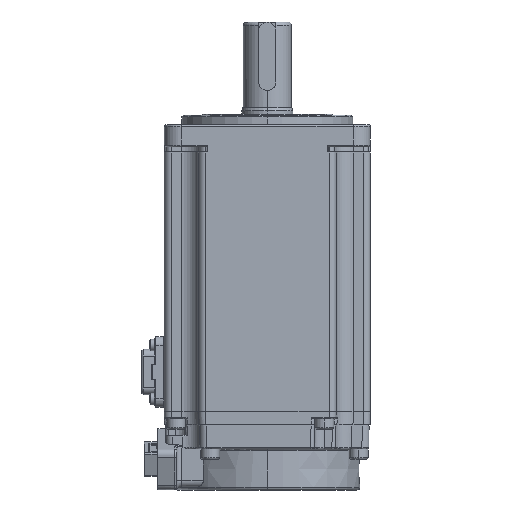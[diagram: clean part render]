
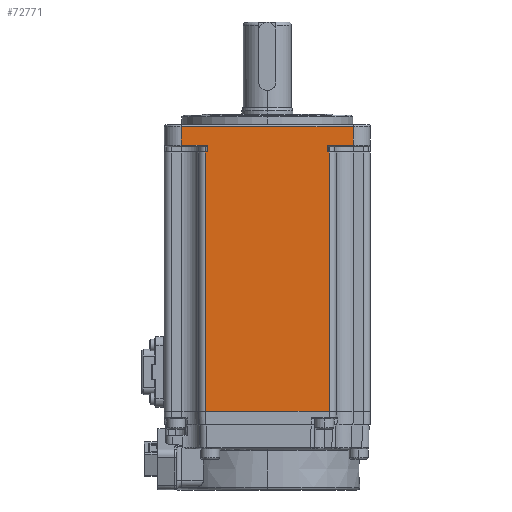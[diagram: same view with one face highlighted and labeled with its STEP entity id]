
A CAD part, left-side view. The second image highlights one B-rep face of the part: STEP entity #72771.
In plain terms, the highlighted planar face has unit normal (-1, 0, 0).
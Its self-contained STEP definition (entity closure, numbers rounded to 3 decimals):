
#1076 = EDGE_CURVE ( 'NONE', #79995, #11406, #11688, .T. ) ;
#1765 = EDGE_CURVE ( 'NONE', #31308, #49079, #22881, .T. ) ;
#2182 = DIRECTION ( 'NONE',  ( 0., -1., 0. ) ) ;
#2753 = CARTESIAN_POINT ( 'NONE',  ( -30.584, 8.554, 119.1 ) ) ;
#4124 = CARTESIAN_POINT ( 'NONE',  ( -30.584, 7.954, 110.7 ) ) ;
#5734 = EDGE_CURVE ( 'NONE', #97655, #78795, #35580, .T. ) ;
#6970 = LINE ( 'NONE', #79907, #12450 ) ;
#9195 = CARTESIAN_POINT ( 'NONE',  ( -30.584, -27.046, 112.7 ) ) ;
#10224 = CARTESIAN_POINT ( 'NONE',  ( -30.584, -39.646, 110.7 ) ) ;
#11053 = CARTESIAN_POINT ( 'NONE',  ( -30.584, -34.646, 112.7 ) ) ;
#11406 = VERTEX_POINT ( 'NONE', #89663 ) ;
#11688 = LINE ( 'NONE', #94845, #103019 ) ;
#12235 = DIRECTION ( 'NONE',  ( 0., 1., 0. ) ) ;
#12450 = VECTOR ( 'NONE', #97329, 1000. ) ;
#15384 = CARTESIAN_POINT ( 'NONE',  ( -30.584, 8.554, 110.7 ) ) ;
#18772 = CARTESIAN_POINT ( 'NONE',  ( -30.584, -27.046, 119.1 ) ) ;
#20343 = AXIS2_PLACEMENT_3D ( 'NONE', #46258, #108033, #55170 ) ;
#21941 = VECTOR ( 'NONE', #27697, 1000. ) ;
#22881 = LINE ( 'NONE', #64111, #90559 ) ;
#25830 = ORIENTED_EDGE ( 'NONE', *, *, #81638, .T. ) ;
#26488 = EDGE_LOOP ( 'NONE', ( #82500, #96374, #54987, #81148, #27273, #39646, #86642, #89366, #76993, #25830, #52174, #78390 ) ) ;
#27273 = ORIENTED_EDGE ( 'NONE', *, *, #66338, .T. ) ;
#27664 = DIRECTION ( 'NONE',  ( 0., 0., 1. ) ) ;
#27697 = DIRECTION ( 'NONE',  ( 0., -1., 0. ) ) ;
#28423 = PLANE ( 'NONE',  #20343 ) ;
#31308 = VERTEX_POINT ( 'NONE', #38748 ) ;
#35580 = LINE ( 'NONE', #38964, #103341 ) ;
#35981 = EDGE_CURVE ( 'NONE', #78795, #76655, #79015, .T. ) ;
#38002 = EDGE_CURVE ( 'NONE', #49079, #69576, #97989, .T. ) ;
#38748 = CARTESIAN_POINT ( 'NONE',  ( -30.584, 15.554, 118.1 ) ) ;
#38964 = CARTESIAN_POINT ( 'NONE',  ( -30.584, -27.646, 119.1 ) ) ;
#39002 = DIRECTION ( 'NONE',  ( 0., 0., 1. ) ) ;
#39646 = ORIENTED_EDGE ( 'NONE', *, *, #1076, .T. ) ;
#40884 = CARTESIAN_POINT ( 'NONE',  ( -30.584, -27.646, 110.7 ) ) ;
#43494 = VERTEX_POINT ( 'NONE', #84797 ) ;
#45990 = VECTOR ( 'NONE', #111430, 1000. ) ;
#46258 = CARTESIAN_POINT ( 'NONE',  ( -30.584, -39.646, 119.1 ) ) ;
#46819 = DIRECTION ( 'NONE',  ( 0., 0., -1. ) ) ;
#48915 = CARTESIAN_POINT ( 'NONE',  ( -30.584, -39.646, 118.1 ) ) ;
#49079 = VERTEX_POINT ( 'NONE', #66122 ) ;
#50977 = VECTOR ( 'NONE', #12235, 1000. ) ;
#52174 = ORIENTED_EDGE ( 'NONE', *, *, #109772, .T. ) ;
#54245 = LINE ( 'NONE', #89932, #74978 ) ;
#54987 = ORIENTED_EDGE ( 'NONE', *, *, #35981, .T. ) ;
#55170 = DIRECTION ( 'NONE',  ( 0., 1., 0. ) ) ;
#57315 = VERTEX_POINT ( 'NONE', #15384 ) ;
#57736 = VERTEX_POINT ( 'NONE', #4124 ) ;
#57905 = LINE ( 'NONE', #2753, #78536 ) ;
#62950 = CARTESIAN_POINT ( 'NONE',  ( -30.584, 7.954, 112.7 ) ) ;
#64111 = CARTESIAN_POINT ( 'NONE',  ( -30.584, 15.554, 119.1 ) ) ;
#64248 = DIRECTION ( 'NONE',  ( 0., 0., -1. ) ) ;
#66122 = CARTESIAN_POINT ( 'NONE',  ( -30.584, 15.554, 112.7 ) ) ;
#66338 = EDGE_CURVE ( 'NONE', #75328, #79995, #85376, .T. ) ;
#67221 = CARTESIAN_POINT ( 'NONE',  ( -30.584, -27.646, 34.9 ) ) ;
#67852 = EDGE_CURVE ( 'NONE', #76655, #75328, #90185, .T. ) ;
#69576 = VERTEX_POINT ( 'NONE', #110669 ) ;
#69636 = CARTESIAN_POINT ( 'NONE',  ( -30.584, -27.046, 110.7 ) ) ;
#70847 = EDGE_CURVE ( 'NONE', #97655, #43494, #100663, .T. ) ;
#72771 = ADVANCED_FACE ( 'NONE', ( #90592 ), #28423, .F. ) ;
#74113 = CARTESIAN_POINT ( 'NONE',  ( -30.584, -39.646, 34.9 ) ) ;
#74965 = EDGE_CURVE ( 'NONE', #57315, #43494, #57905, .T. ) ;
#74978 = VECTOR ( 'NONE', #98816, 1000. ) ;
#75328 = VERTEX_POINT ( 'NONE', #9195 ) ;
#76655 = VERTEX_POINT ( 'NONE', #69636 ) ;
#76993 = ORIENTED_EDGE ( 'NONE', *, *, #38002, .T. ) ;
#78390 = ORIENTED_EDGE ( 'NONE', *, *, #74965, .T. ) ;
#78536 = VECTOR ( 'NONE', #46819, 1000. ) ;
#78795 = VERTEX_POINT ( 'NONE', #40884 ) ;
#79015 = LINE ( 'NONE', #10224, #99722 ) ;
#79907 = CARTESIAN_POINT ( 'NONE',  ( -30.584, -39.646, 110.7 ) ) ;
#79995 = VERTEX_POINT ( 'NONE', #88297 ) ;
#80293 = EDGE_CURVE ( 'NONE', #11406, #31308, #93022, .T. ) ;
#81148 = ORIENTED_EDGE ( 'NONE', *, *, #67852, .T. ) ;
#81638 = EDGE_CURVE ( 'NONE', #69576, #57736, #54245, .T. ) ;
#82500 = ORIENTED_EDGE ( 'NONE', *, *, #70847, .F. ) ;
#82533 = VECTOR ( 'NONE', #2182, 1000. ) ;
#84797 = CARTESIAN_POINT ( 'NONE',  ( -30.584, 8.554, 34.9 ) ) ;
#85376 = LINE ( 'NONE', #11053, #82533 ) ;
#86642 = ORIENTED_EDGE ( 'NONE', *, *, #80293, .T. ) ;
#88297 = CARTESIAN_POINT ( 'NONE',  ( -30.584, -34.646, 112.7 ) ) ;
#89366 = ORIENTED_EDGE ( 'NONE', *, *, #1765, .T. ) ;
#89663 = CARTESIAN_POINT ( 'NONE',  ( -30.584, -34.646, 118.1 ) ) ;
#89833 = DIRECTION ( 'NONE',  ( 0., 1., 0. ) ) ;
#89932 = CARTESIAN_POINT ( 'NONE',  ( -30.584, 7.954, 119.1 ) ) ;
#90185 = LINE ( 'NONE', #18772, #113689 ) ;
#90559 = VECTOR ( 'NONE', #64248, 1000. ) ;
#90592 = FACE_OUTER_BOUND ( 'NONE', #26488, .T. ) ;
#93022 = LINE ( 'NONE', #48915, #45990 ) ;
#94845 = CARTESIAN_POINT ( 'NONE',  ( -30.584, -34.646, 119.1 ) ) ;
#96374 = ORIENTED_EDGE ( 'NONE', *, *, #5734, .T. ) ;
#97329 = DIRECTION ( 'NONE',  ( 0., 1., 0. ) ) ;
#97655 = VERTEX_POINT ( 'NONE', #67221 ) ;
#97989 = LINE ( 'NONE', #62950, #21941 ) ;
#98816 = DIRECTION ( 'NONE',  ( 0., 0., -1. ) ) ;
#99722 = VECTOR ( 'NONE', #89833, 1000. ) ;
#100101 = DIRECTION ( 'NONE',  ( 0., 0., 1. ) ) ;
#100663 = LINE ( 'NONE', #74113, #50977 ) ;
#103019 = VECTOR ( 'NONE', #100101, 1000. ) ;
#103341 = VECTOR ( 'NONE', #39002, 1000. ) ;
#108033 = DIRECTION ( 'NONE',  ( 1., 0., 0. ) ) ;
#109772 = EDGE_CURVE ( 'NONE', #57736, #57315, #6970, .T. ) ;
#110669 = CARTESIAN_POINT ( 'NONE',  ( -30.584, 7.954, 112.7 ) ) ;
#111430 = DIRECTION ( 'NONE',  ( 0., 1., 0. ) ) ;
#113689 = VECTOR ( 'NONE', #27664, 1000. ) ;
